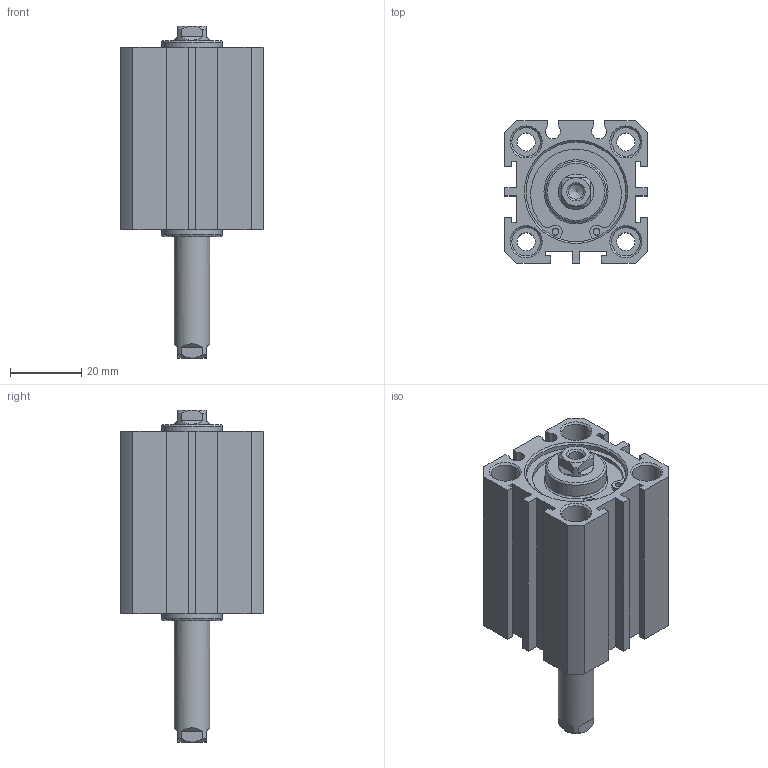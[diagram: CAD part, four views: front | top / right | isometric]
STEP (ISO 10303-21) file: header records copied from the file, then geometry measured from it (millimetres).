
FILE_DESCRIPTION((''),'2;1');
FILE_NAME('I:\3D電子目錄\氣缸\JDD\JDD\JDD25\JDD25x30.stp','2007-02-08T09:24:26',('662F206'),(''),'Autodesk Inventor 10','Autodesk Inventor 10','');
FILE_SCHEMA(('AUTOMOTIVE_DESIGN { 1 0 10303 214 1 1 1 1 }'));
Length unit declared in the file: millimetre
Products named in the file (3): JDD25; R 形環 28
Assembly tree (3 placements, depth 2):
  JDD25
    JDD25
    R 形環 28  x2
Bounding box: 40 x 40 x 93.2 mm (x, y, z)
Volume: 68031.3 mm3; surface area: 22123.7 mm2
Topology: 3 solids, 3 shells, 172 faces, 410 edges, 266 vertices
Faces by surface type: plane 92, cylinder 46, cone 22, bspline 10, torus 2
Full cylindrical faces by diameter (mm): 1.5 x2, 1.9 x4, 5.1 x4, 8 x8, 10 x2, 17 x2, 28 x4, 29.4 x2
Entity records: 4529 total; most frequent: CARTESIAN_POINT 950, DIRECTION 740, ORIENTED_EDGE 640, EDGE_CURVE 320, AXIS2_PLACEMENT_3D 280, EDGE_LOOP 244, VERTEX_POINT 236, VECTOR 180
